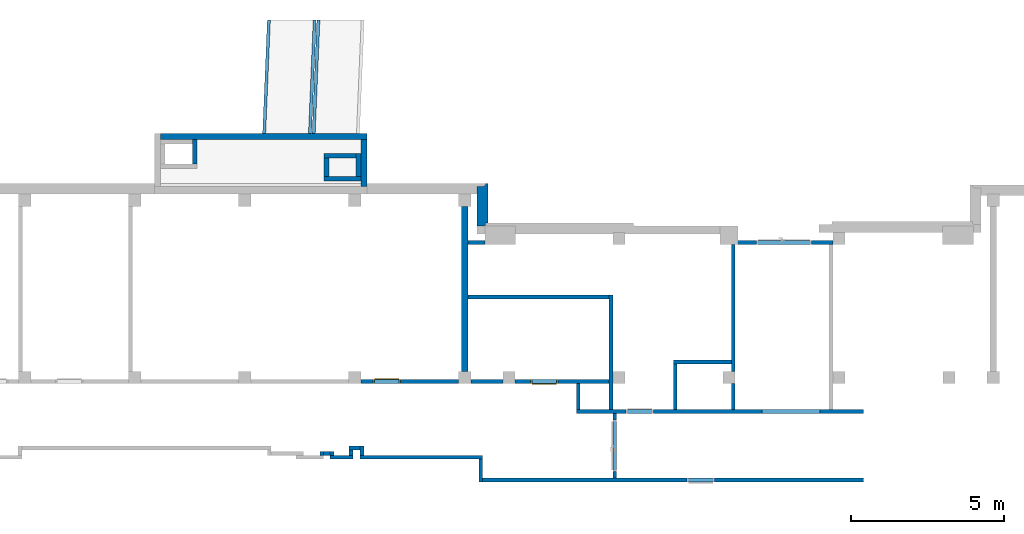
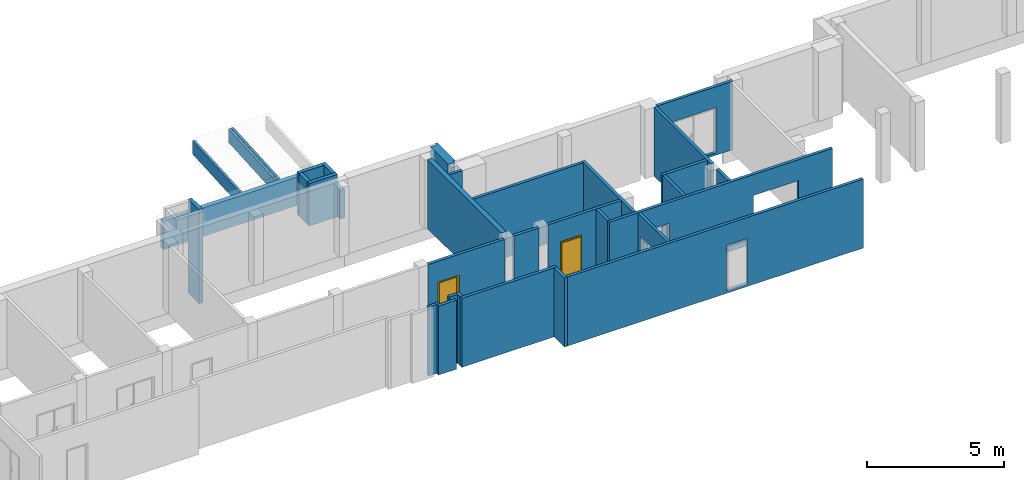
# One storey, part 3 of 6: 36 walls, 2 doors, 7 openings.
"""IFC4 building model written with IfcOpenShell, lengths in metres."""

import ifcopenshell
import ifcopenshell.guid

model = None  # the IFC model being written
_history = None  # IfcOwnerHistory: only IFC2X3 demands one
_inside = {}  # id of a spatial element -> (the spatial element, [elements in it])
_under = {}  # id of a project, library or spatial element -> (it, [spatial elements below it])
_declared = {}  # id of a project -> (the project, [libraries it declares])
_typed = {}  # id of a type object -> (the type object, [elements of that type])
_made_of = {}  # id of a material, layer set ... -> (it, [elements and type objects made of it])


def new_model(schema):
    """Start an empty IFC model of exactly this schema.

    Asked for "IFC4X3", IfcOpenShell would pick the latest addendum, in which some entities
    have other attributes; the version numbers below select the first issue.
    IFC2X3 requires an IfcOwnerHistory on every rooted entity: one is made here for all.
    """
    global model, _history
    if schema == "IFC4X3":
        model = ifcopenshell.file(schema_version=(4, 3, 0, 0))
    else:
        model = ifcopenshell.file(schema=schema)
    _inside.clear()
    _under.clear()
    _declared.clear()
    _typed.clear()
    _made_of.clear()
    _history = None
    if model.schema == "IFC2X3":
        org = make("IfcOrganization", Name="unknown")
        user = make(
            "IfcPersonAndOrganization",
            ThePerson=make("IfcPerson", FamilyName="unknown"),
            TheOrganization=org,
        )
        app = make(
            "IfcApplication",
            ApplicationDeveloper=org,
            Version="unknown",
            ApplicationFullName="unknown",
            ApplicationIdentifier="unknown",
        )
        _history = make(
            "IfcOwnerHistory",
            OwningUser=user,
            OwningApplication=app,
            ChangeAction="ADDED",
            CreationDate=0,
        )
    return model


def make(cls, **values):
    """One entity of the class cls with the attributes given. An attribute that is None is left unset."""
    return model.create_entity(
        cls, **{name: value for name, value in values.items() if value is not None}
    )


def entity(cls, *values):
    """Any entity or typed value of the class cls, its attributes in the order of the schema. None: left unset."""
    e = model.create_entity(cls)
    for i, value in enumerate(values):
        if value is not None:
            e[i] = value
    return e


def rooted(cls, **values):
    """An entity with a GlobalId (a new one), such as an element, a storey or a relation."""
    return make(cls, GlobalId=ifcopenshell.guid.new(), OwnerHistory=_history, **values)


def si_unit(unit_type, name, prefix=None):
    """IfcSIUnit, for example si_unit("LENGTHUNIT", "METRE", prefix="MILLI")."""
    return make("IfcSIUnit", UnitType=unit_type, Prefix=prefix, Name=name)


def converted_unit(unit_type, name, factor, base, dimensions=None, offset=None):
    """IfcConversionBasedUnit, such as the inch: factor (a typed value) times the base unit."""
    return make(
        "IfcConversionBasedUnit"
        if offset is None
        else "IfcConversionBasedUnitWithOffset",
        ConversionOffset=offset,
        Dimensions=None
        if dimensions is None
        else entity("IfcDimensionalExponents", *dimensions),
        UnitType=unit_type,
        Name=name,
        ConversionFactor=make(
            "IfcMeasureWithUnit", ValueComponent=factor, UnitComponent=base
        ),
    )


def derived_unit(unit_type, elements):
    """IfcDerivedUnit: a product of units, each with its exponent."""
    return make(
        "IfcDerivedUnit",
        Elements=[
            make("IfcDerivedUnitElement", Unit=unit, Exponent=power)
            for unit, power in elements
        ],
        UnitType=unit_type,
    )


def assignment(units):
    """IfcUnitAssignment: the units of a project."""
    return None if units is None else make("IfcUnitAssignment", Units=units)


def point(xyz):
    """IfcCartesianPoint."""
    return None if xyz is None else make("IfcCartesianPoint", Coordinates=xyz)


def direction(xyz):
    """IfcDirection."""
    return None if xyz is None else make("IfcDirection", DirectionRatios=xyz)


def frame(location, z_axis=None, x_axis=None):
    """IfcAxis2Placement3D, a coordinate frame: its origin and axes. An axis left out is left unset."""
    return make(
        "IfcAxis2Placement3D",
        Location=point(location),
        Axis=direction(z_axis),
        RefDirection=direction(x_axis),
    )


def frame_2d(location, x_axis=None):
    """IfcAxis2Placement2D, a coordinate frame in the plane: its origin and x axis."""
    return make(
        "IfcAxis2Placement2D", Location=point(location), RefDirection=direction(x_axis)
    )


def origin():
    """The frame at (0, 0, 0) with its axes left unset."""
    return frame((0.0, 0.0, 0.0))


def origin_with_axes():
    """The frame at (0, 0, 0) with the z axis (0, 0, 1) and the x axis (1, 0, 0) written out."""
    return frame((0.0, 0.0, 0.0), z_axis=(0.0, 0.0, 1.0), x_axis=(1.0, 0.0, 0.0))


def place(relative_to, where):
    """IfcLocalPlacement: puts the frame where relative to a parent placement (None: the world)."""
    return make(
        "IfcLocalPlacement", PlacementRelTo=relative_to, RelativePlacement=where
    )


def context(
    kind, dimensions, precision=None, world=None, true_north=None, identifier=None
):
    """IfcGeometricRepresentationContext, for example the 3D "Model" context."""
    return make(
        "IfcGeometricRepresentationContext",
        ContextIdentifier=identifier,
        ContextType=kind,
        CoordinateSpaceDimension=dimensions,
        Precision=precision,
        WorldCoordinateSystem=world,
        TrueNorth=true_north,
    )


def subcontext(parent, identifier, kind, view, scale=None):
    """IfcGeometricRepresentationSubContext, for example "Body" below "Model"."""
    return make(
        "IfcGeometricRepresentationSubContext",
        ContextIdentifier=identifier,
        ContextType=kind,
        ParentContext=parent,
        TargetScale=scale,
        TargetView=view,
    )


def project(units=None, contexts=None):
    """IfcProject with its units and contexts."""
    return rooted(
        "IfcProject",
        Name="project",
        RepresentationContexts=contexts,
        UnitsInContext=assignment(units),
    )


def spatial(cls, under=None, at=None, **own):
    """A site, building, storey or space (cls), placed at a placement, below another one or the project."""
    s = rooted(cls, ObjectPlacement=at, **own)
    if under is not None:
        _under.setdefault(under.id(), (under, []))[1].append(s)
    return s


def polyline(points):
    """IfcPolyline through the points."""
    return make("IfcPolyline", Points=[point(p) for p in points])


def profile(cls, at=None, kind="AREA", **sizes):
    """A parametric profile (cls). Its sizes go by their IFC names, for example OverallWidth=200.0."""
    return make(cls, ProfileType=kind, Position=at, **sizes)


def rectangle(**sizes):
    """IfcRectangleProfileDef."""
    return profile("IfcRectangleProfileDef", **sizes)


def outline(outer, holes=None, kind="AREA"):
    """IfcArbitraryClosedProfileDef: a profile drawn as a closed curve; with holes, ...WithVoids."""
    if holes is None:
        return make("IfcArbitraryClosedProfileDef", ProfileType=kind, OuterCurve=outer)
    return make(
        "IfcArbitraryProfileDefWithVoids",
        ProfileType=kind,
        OuterCurve=outer,
        InnerCurves=holes,
    )


def extrude(swept, where, along, depth):
    """IfcExtrudedAreaSolid: the profile swept, set in the frame where, extruded along a direction by depth."""
    return make(
        "IfcExtrudedAreaSolid",
        SweptArea=swept,
        Position=where,
        ExtrudedDirection=direction(along),
        Depth=depth,
    )


def clip(a, b, op="DIFFERENCE"):
    """IfcBooleanClippingResult: the solid a cut by the half space b."""
    return make(
        "IfcBooleanClippingResult", Operator=op, FirstOperand=a, SecondOperand=b
    )


def bounded_halfspace(plane, agree, where, boundary):
    """IfcPolygonalBoundedHalfSpace: a half space limited to a polygon's prism."""
    return make(
        "IfcPolygonalBoundedHalfSpace",
        BaseSurface=make("IfcPlane", Position=plane),
        AgreementFlag=agree,
        Position=where,
        PolygonalBoundary=boundary,
    )


def faces_of(points, faces, orient=None, outer=None):
    """IfcFace entities. A face is a list of loops; a loop is a list of indices into points, from 0.

    orient and outer hold one flag for each loop. By default every Orientation is true, the
    first loop of a face is its IfcFaceOuterBound and the others are IfcFaceBound.
    """
    made = []
    for i, loops in enumerate(faces):
        bounds = []
        for j, loop in enumerate(loops):
            is_outer = j == 0 if outer is None else outer[i][j]
            bounds.append(
                make(
                    "IfcFaceOuterBound" if is_outer else "IfcFaceBound",
                    Bound=make("IfcPolyLoop", Polygon=[points[k] for k in loop]),
                    Orientation=True if orient is None else orient[i][j],
                )
            )
        made.append(make("IfcFace", Bounds=bounds))
    return made


def faceted_brep(points, faces, orient=None, outer=None, voids=None):
    """IfcFacetedBrep: a solid bounded by flat faces; with voids (closed shells), ...WithVoids."""
    shared = [point(p) for p in points]
    hull = make("IfcClosedShell", CfsFaces=faces_of(shared, faces, orient, outer))
    if voids is None:
        return make("IfcFacetedBrep", Outer=hull)
    return make(
        "IfcFacetedBrepWithVoids",
        Outer=hull,
        Voids=[
            make(cls, CfsFaces=faces_of(shared, fs, o, b)) for cls, fs, o, b in voids
        ],
    )


def shape(context_of_items, identifier, shape_type, items):
    """IfcShapeRepresentation: the items that make up one representation, for example the "Body"."""
    return make(
        "IfcShapeRepresentation",
        ContextOfItems=context_of_items,
        RepresentationIdentifier=identifier,
        RepresentationType=shape_type,
        Items=items,
    )


def source(mapping_origin, context_of_items, identifier, shape_type, items):
    """IfcRepresentationMap: a shape defined once, which mapped items show again and again."""
    return make(
        "IfcRepresentationMap",
        MappingOrigin=mapping_origin,
        MappedRepresentation=shape(context_of_items, identifier, shape_type, items),
    )


def transform(
    local_origin,
    x_axis=None,
    y_axis=None,
    z_axis=None,
    scale=None,
    scale2=None,
    scale3=None,
    uniform=True,
):
    """IfcCartesianTransformationOperator3D, or its non-uniform kind. x_axis, y_axis, z_axis: its Axis1, 2, 3."""
    if uniform:
        return make(
            "IfcCartesianTransformationOperator3D",
            Axis1=direction(x_axis),
            Axis2=direction(y_axis),
            LocalOrigin=point(local_origin),
            Scale=scale,
            Axis3=direction(z_axis),
        )
    return make(
        "IfcCartesianTransformationOperator3DnonUniform",
        Axis1=direction(x_axis),
        Axis2=direction(y_axis),
        LocalOrigin=point(local_origin),
        Scale=scale,
        Axis3=direction(z_axis),
        Scale2=scale2,
        Scale3=scale3,
    )


def mapped(mapping_source, mapping_target):
    """IfcMappedItem: shows the shape of a source again, moved by a transform."""
    return make(
        "IfcMappedItem", MappingSource=mapping_source, MappingTarget=mapping_target
    )


def material(Name=None, Category=None):
    """IfcMaterial."""
    return make("IfcMaterial", Name=Name, Category=Category)


def layer(
    of_material, thickness, ventilated=None, Name=None, Category=None, Priority=None
):
    """IfcMaterialLayer: one layer of a wall or slab, of a material (None: an air gap)."""
    return make(
        "IfcMaterialLayer",
        Material=of_material,
        LayerThickness=thickness,
        IsVentilated=ventilated,
        Name=Name,
        Category=Category,
        Priority=Priority,
    )


def layer_set(layers, Name=None):
    """IfcMaterialLayerSet."""
    return make("IfcMaterialLayerSet", MaterialLayers=layers, LayerSetName=Name)


def layer_usage(for_layer_set, set_direction, sense, offset, extent=None):
    """IfcMaterialLayerSetUsage: how a layer set lies in its element."""
    return make(
        "IfcMaterialLayerSetUsage",
        ForLayerSet=for_layer_set,
        LayerSetDirection=set_direction,
        DirectionSense=sense,
        OffsetFromReferenceLine=offset,
        ReferenceExtent=extent,
    )


def made_of(thing, what):
    """Note that an element or type object is made of a material, layer set ...; save() writes the relation."""
    if what is not None:
        _made_of.setdefault(what.id(), (what, []))[1].append(thing)
    return thing


def type_object(cls, material=None, **own):
    """A type object (cls), such as IfcWallType, which elements share."""
    return made_of(rooted(cls, **own), material)


def element(
    cls,
    number,
    at=None,
    inside=None,
    cuts=None,
    type_object=None,
    material=None,
    context=None,
    identifier="Body",
    shape_type=None,
    held_by="IfcProductDefinitionShape",
    body=None,
    shapes=None,
    **own,
):
    """One element of the class cls, such as IfcWall. Its Tag is "e" and its number.

    at: its placement. inside: the storey or other place that contains it. cuts: it is an
    opening in that element (IfcRelVoidsElement). A single representation is given by context,
    identifier, shape_type and body (its items); several are given by shapes. held_by: the class
    of the entity that holds the representations. save() writes the other relations.
    """
    e = rooted(cls, Tag="e%d" % number, ObjectPlacement=at, **own)
    if body is not None:
        shapes = [shape(context, identifier, shape_type, body)]
    if shapes is not None:
        e.Representation = make(held_by, Representations=shapes)
    if inside is not None:
        _inside.setdefault(inside.id(), (inside, []))[1].append(e)
    if cuts is not None:
        rooted(
            "IfcRelVoidsElement", RelatingBuildingElement=cuts, RelatedOpeningElement=e
        )
    if type_object is not None:
        _typed.setdefault(type_object.id(), (type_object, []))[1].append(e)
    return made_of(e, material)


def fill(opening, filler):
    """IfcRelFillsElement: the door or window that sits in an opening."""
    return rooted(
        "IfcRelFillsElement",
        RelatingOpeningElement=opening,
        RelatedBuildingElement=filler,
    )


def aggregate(whole, parts):
    """IfcRelAggregates: a whole, such as a stair, and the parts it consists of."""
    return rooted("IfcRelAggregates", RelatingObject=whole, RelatedObjects=parts)


def save(model, path):
    """Write the relations noted so far, then the file.

    IfcRelAggregates (storeys below a building ...), IfcRelContainedInSpatialStructure (elements
    in a storey), IfcRelDefinesByType, IfcRelAssociatesMaterial and IfcRelDeclares: one each for
    every whole, place, type object, material and project.
    """
    for whole, parts in _under.values():
        aggregate(whole, parts)
    for where, things in _inside.values():
        rooted(
            "IfcRelContainedInSpatialStructure",
            RelatedElements=things,
            RelatingStructure=where,
        )
    for kind, things in _typed.values():
        rooted("IfcRelDefinesByType", RelatedObjects=things, RelatingType=kind)
    for what, things in _made_of.values():
        rooted("IfcRelAssociatesMaterial", RelatedObjects=things, RelatingMaterial=what)
    for by, libraries in _declared.values():
        rooted("IfcRelDeclares", RelatingContext=by, RelatedDefinitions=libraries)
    model.write(path)


model = new_model("IFC4")

# Units and contexts
model_context = context("Model", 3, precision=1e-05, world=origin())
body_context = subcontext(model_context, "Body", "Model", "MODEL_VIEW")
ifc_project = project(units=[si_unit("LENGTHUNIT", "METRE"), si_unit("AREAUNIT", "SQUARE_METRE"), si_unit("VOLUMEUNIT", "CUBIC_METRE"), si_unit("MASSUNIT", "GRAM", prefix="KILO"), converted_unit("PLANEANGLEUNIT", "DEGREE", entity("IfcPlaneAngleMeasure", 0.0174532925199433), si_unit("PLANEANGLEUNIT", "RADIAN"), dimensions=[0, 0, 0, 0, 0, 0, 0]), derived_unit("THERMALTRANSMITTANCEUNIT", [(si_unit("POWERUNIT", "WATT"), 1), (si_unit("THERMODYNAMICTEMPERATUREUNIT", "KELVIN"), -1), (si_unit("LENGTHUNIT", "METRE"), -2)]), derived_unit("VOLUMETRICFLOWRATEUNIT", [(si_unit("LENGTHUNIT", "METRE"), 3), (converted_unit("TIMEUNIT", "hour", entity("IfcTimeMeasure", 3600.0), si_unit("TIMEUNIT", "SECOND"), dimensions=[0, 0, 1, 0, 0, 0, 0]), -1), (si_unit("LENGTHUNIT", "METRE"), -1)])], contexts=[model_context])

# Site, building, storey
site_placement = place(None, origin())
site = spatial("IfcSite", under=ifc_project, at=site_placement, Name="3. ASŘ", CompositionType="ELEMENT")
building_placement = place(site_placement, origin())
building = spatial("IfcBuilding", under=site, at=building_placement, Name="Pavilon B", CompositionType="ELEMENT")
storey_placement = place(building_placement, frame((0.0, 0.0, -3.3)))
storey = spatial("IfcBuildingStorey", under=building, at=storey_placement, Name="Půdorys 1.PP", CompositionType="ELEMENT", Elevation=-3.3)

# Wall, opening
ifc_material_1 = material(Name="ZDIVO Z CDm")
ifc_layer_1 = layer(ifc_material_1, 0.125)
ifc_layer_set_1 = layer_set([ifc_layer_1])
ifc_layer_usage_1 = layer_usage(ifc_layer_set_1, "AXIS2", "POSITIVE", 0.0)
wall_1_placement = place(storey_placement, frame((40.65, -17.25, -0.1)))
wall_1 = element("IfcWall", 1, at=wall_1_placement, inside=storey, material=ifc_layer_usage_1, Name="ZDIVO Z CDm", context=body_context, shape_type="SweptSolid", body=[
    extrude(rectangle(XDim=3.2, YDim=0.125, at=frame_2d((1.6, 0.0625), x_axis=(1.0, 0.0))), origin_with_axes(), (0.0, 0.0, 1.0), 3.05),
])
opening_1_placement = place(wall_1_placement, frame((2.5, 0.125, 0.1), z_axis=(0.0, -1.0, 0.0), x_axis=(0.0, 0.0, 1.0)))
element("IfcOpeningElement", 2, at=opening_1_placement, cuts=wall_1, Name="Dveřní otvor", ObjectType="Opening", context=body_context, shape_type="SweptSolid", body=[
    extrude(outline(polyline([(0.0, 1.8), (2.02, 1.8), (2.02, 0.0), (0.0, 0.0), (0.0, 1.8)])), origin_with_axes(), (0.0, 0.0, 1.0), 0.125),
])

# Walls
ifc_material_2 = material(Name="ZELEZOBETONOVÁ KCE")
ifc_layer_2 = layer(ifc_material_2, 0.2)
ifc_layer_set_2 = layer_set([ifc_layer_2])
ifc_layer_usage_2 = layer_usage(ifc_layer_set_2, "AXIS2", "POSITIVE", -0.1)
wall_2_placement = place(storey_placement, frame((31.9, -21.4, -0.12), z_axis=(0.0, 0.0, 1.0), x_axis=(0.0, 1.0, 0.0)))
element("IfcWall", 3, at=wall_2_placement, inside=storey, material=ifc_layer_usage_2, Name="ZELEZOBETONOVÁ KCE", context=body_context, shape_type="SweptSolid", body=[
    extrude(rectangle(XDim=5.4, YDim=0.2, at=frame_2d((2.7, 0.1), x_axis=(1.0, 0.0))), origin_with_axes(), (0.0, 0.0, 1.0), 3.07),
])
ifc_material_3 = material(Name="ZELEZOBETONOVÁ KCE")
ifc_layer_3 = layer(ifc_material_3, 0.25)
ifc_material_4 = material(Name="LIGNOPOR")
ifc_layer_4 = layer(ifc_material_4, 0.025)
ifc_material_5 = material(Name="PÓROBETONOVÉ ZDIVO")
ifc_layer_5 = layer(ifc_material_5, 0.08)
ifc_layer_set_3 = layer_set([ifc_layer_3, ifc_layer_4, ifc_layer_5])
ifc_layer_usage_3 = layer_usage(ifc_layer_set_3, "AXIS2", "POSITIVE", 0.0)
wall_3_placement = place(storey_placement, frame((32.2, -15.35, -1.15), z_axis=(0.0, 0.0, 1.0), x_axis=(0.0, -1.0, 0.0)))
element("IfcWall", 4, at=wall_3_placement, inside=storey, material=ifc_layer_usage_3, Name="ZELEZOBETONOVÁ KCE", context=body_context, shape_type="Clipping", body=[
    clip(clip(extrude(outline(polyline([(-1.3, 0.0), (0.0, 0.0), (0.0, 0.25), (-0.025, 0.25), (-0.025, 0.275), (-0.105, 0.275), (-0.105, 0.355), (-1.405, 0.355), (-1.405, 0.275), (-1.325, 0.275), (-1.325, 0.25), (-1.3, 0.25), (-1.3, 0.0)])), frame((1.3, 0.0, 0.0), z_axis=(0.0, 0.0, 1.0), x_axis=(1.0, 0.0, 0.0)), (0.0, 0.0, 1.0), 4.1), bounded_halfspace(frame((0.649999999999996, 0.125, 0.750000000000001), z_axis=(0.0, 0.0, 1.0), x_axis=(0.0, -1.0, 0.0)), True, origin_with_axes(), polyline([(0.0, 0.25), (0.0, 0.0), (1.3, 0.0), (1.3, 0.25), (0.0, 0.25)]))), bounded_halfspace(frame((0.61583333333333, 0.262499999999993, 1.15), z_axis=(0.0, 0.0, 1.0), x_axis=(-1.0, 0.0, 0.0)), True, origin_with_axes(), polyline([(1.195, 0.275), (-0.025, 0.275), (-0.025, 0.25), (0.0, 0.25), (1.275, 0.25), (1.275, 0.275), (1.195, 0.275)]))),
])
ifc_material_6 = material(Name="ZELEZOBETONOVÁ KCE")
ifc_layer_6 = layer(ifc_material_6, 0.15)
ifc_layer_set_4 = layer_set([ifc_layer_6])
ifc_layer_usage_4 = layer_usage(ifc_layer_set_4, "AXIS2", "POSITIVE", 0.0)
wall_4_placement = place(storey_placement, frame((23.0430036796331, -14.6107926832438, -1.23), z_axis=(0.0, 0.0, 1.0), x_axis=(0.0, 1.0, 0.0)))
element("IfcWall", 5, at=wall_4_placement, inside=storey, material=ifc_layer_usage_4, Name="ZELEZOBETONOVÁ KCE", context=body_context, shape_type="SweptSolid", body=[
    extrude(rectangle(XDim=0.8, YDim=0.15, at=frame_2d((0.4, 0.075), x_axis=(1.0, 0.0))), origin_with_axes(), (0.0, 0.0, 1.0), 4.18),
])
ifc_material_7 = material(Name="ZELEZOBETONOVÁ KCE")
ifc_layer_7 = layer(ifc_material_7, 0.15)
ifc_layer_set_5 = layer_set([ifc_layer_7])
ifc_layer_usage_5 = layer_usage(ifc_layer_set_5, "AXIS2", "POSITIVE", 0.0)
wall_5_placement = place(storey_placement, frame((28.2481868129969, -14.275, 1.06), z_axis=(0.0, 0.0, 1.0), x_axis=(0.0, -1.0, 0.0)))
element("IfcWall", 6, at=wall_5_placement, inside=storey, material=ifc_layer_usage_5, Name="ZELEZOBETONOVÁ KCE", context=body_context, shape_type="SweptSolid", body=[
    extrude(rectangle(XDim=0.75, YDim=0.15, at=frame_2d((0.375, 0.075), x_axis=(1.0, 0.0))), origin_with_axes(), (0.0, 0.0, 1.0), 1.89),
])
ifc_material_8 = material(Name="ZELEZOBETONOVÁ KCE")
ifc_layer_8 = layer(ifc_material_8, 0.15)
ifc_layer_set_6 = layer_set([ifc_layer_8])
ifc_layer_usage_6 = layer_usage(ifc_layer_set_6, "AXIS2", "POSITIVE", 0.0)
wall_6_placement = place(storey_placement, frame((27.1981868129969, -14.425, 1.06), z_axis=(0.0, 0.0, 1.0), x_axis=(0.0, -1.0, 0.0)))
element("IfcWall", 7, at=wall_6_placement, inside=storey, material=ifc_layer_usage_6, Name="ZELEZOBETONOVÁ KCE", context=body_context, shape_type="SweptSolid", body=[
    extrude(rectangle(XDim=0.6, YDim=0.15, at=frame_2d((0.3, 0.075), x_axis=(1.0, 0.0))), origin_with_axes(), (0.0, 0.0, 1.0), 1.89),
])
ifc_material_9 = material(Name="ZELEZOBETONOVÁ KCE")
ifc_layer_9 = layer(ifc_material_9, 0.15)
ifc_layer_set_7 = layer_set([ifc_layer_9])
ifc_layer_usage_7 = layer_usage(ifc_layer_set_7, "AXIS2", "POSITIVE", 0.0)
wall_7_placement = place(storey_placement, frame((27.1981868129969, -15.175, 1.06)))
element("IfcWall", 8, at=wall_7_placement, inside=storey, material=ifc_layer_usage_7, Name="ZELEZOBETONOVÁ KCE", context=body_context, shape_type="SweptSolid", body=[
    extrude(rectangle(XDim=1.2, YDim=0.15, at=frame_2d((0.6, 0.075), x_axis=(1.0, 0.0))), origin_with_axes(), (0.0, 0.0, 1.0), 1.89),
])
ifc_material_10 = material(Name="ZELEZOBETONOVÁ KCE")
ifc_layer_10 = layer(ifc_material_10, 0.15)
ifc_layer_set_8 = layer_set([ifc_layer_10])
ifc_layer_usage_8 = layer_usage(ifc_layer_set_8, "AXIS2", "POSITIVE", 0.0)
wall_8_placement = place(storey_placement, frame((28.2481868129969, -14.275, 1.06), z_axis=(0.0, 0.0, 1.0), x_axis=(-1.0, 0.0, 0.0)))
element("IfcWall", 9, at=wall_8_placement, inside=storey, material=ifc_layer_usage_8, Name="ZELEZOBETONOVÁ KCE", context=body_context, shape_type="SweptSolid", body=[
    extrude(rectangle(XDim=1.05, YDim=0.15, at=frame_2d((0.525, 0.075), x_axis=(1.0, 0.0))), origin_with_axes(), (0.0, 0.0, 1.0), 1.89),
])
ifc_material_11 = material(Name="ZELEZOBETONOVÁ KCE")
ifc_layer_11 = layer(ifc_material_11, 0.2)
ifc_layer_set_9 = layer_set([ifc_layer_11])
ifc_layer_usage_9 = layer_usage(ifc_layer_set_9, "AXIS2", "POSITIVE", 0.0)
wall_9_placement = place(storey_placement, frame((28.3981868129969, -13.8107926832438, 1.06), z_axis=(0.0, 0.0, 1.0), x_axis=(0.0, -1.0, 0.0)))
element("IfcWall", 10, at=wall_9_placement, inside=storey, material=ifc_layer_usage_9, Name="ZELEZOBETONOVÁ KCE", context=body_context, shape_type="SweptSolid", body=[
    extrude(rectangle(XDim=1.53920731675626, YDim=0.2, at=frame_2d((0.769603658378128, 0.1), x_axis=(1.0, 0.0))), origin_with_axes(), (0.0, 0.0, 1.0), 1.26),
])
ifc_material_12 = material(Name="ZELEZOBETONOVÁ KCE")
ifc_layer_12 = layer(ifc_material_12, 0.2)
ifc_layer_set_10 = layer_set([ifc_layer_12])
ifc_layer_usage_10 = layer_usage(ifc_layer_set_10, "AXIS2", "POSITIVE", 0.0)
wall_10_placement = place(storey_placement, frame((28.5981868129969, -13.6107926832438, 1.06), z_axis=(0.0, 0.0, 1.0), x_axis=(-1.0, 0.0, 0.0)))
element("IfcWall", 11, at=wall_10_placement, inside=storey, material=ifc_layer_usage_10, Name="ZELEZOBETONOVÁ KCE", context=body_context, shape_type="SweptSolid", body=[
    extrude(rectangle(XDim=6.75518313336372, YDim=0.2, at=frame_2d((3.37759156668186, 0.1), x_axis=(1.0, 0.0))), origin_with_axes(), (0.0, 0.0, 1.0), 1.26),
])
ifc_material_13 = material(Name="PREFA ŽB ENERGOKANÁL")
ifc_layer_13 = layer(ifc_material_13, 0.0999999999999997)
ifc_layer_set_11 = layer_set([ifc_layer_13])
ifc_layer_usage_11 = layer_usage(ifc_layer_set_11, "AXIS2", "POSITIVE", 0.0)
wall_11_placement = place(storey_placement, frame((26.9593908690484, -9.90045846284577, 1.72), z_axis=(0.0, 0.0, 1.0), x_axis=(-0.0415315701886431, -0.999137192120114, 0.0)))
element("IfcWall", 12, at=wall_11_placement, inside=storey, material=ifc_layer_usage_11, Name="PREFA ŽB ENERGOKANÁL", context=body_context, shape_type="SweptSolid", body=[
    extrude(outline(polyline([(-3.71353829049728, 0.0), (0.0, 0.0), (-0.00415674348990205, 0.0999999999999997), (-3.71769503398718, 0.0999999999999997), (-3.71353829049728, 0.0)])), frame((3.71353829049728, 0.0, 0.0), z_axis=(0.0, 0.0, 1.0), x_axis=(1.0, 0.0, 0.0)), (0.0, 0.0, 1.0), 0.6),
])
ifc_material_14 = material(Name="PREFA ŽB ENERGOKANÁL")
ifc_layer_14 = layer(ifc_material_14, 0.100000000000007)
ifc_layer_set_12 = layer_set([ifc_layer_14])
ifc_layer_usage_12 = layer_usage(ifc_layer_set_12, "AXIS2", "POSITIVE", 0.0)
wall_12_placement = place(storey_placement, frame((26.8392872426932, -9.90045846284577, 1.72), z_axis=(0.0, 0.0, 1.0), x_axis=(-0.0415315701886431, -0.999137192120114, 0.0)))
element("IfcWall", 13, at=wall_12_placement, inside=storey, material=ifc_layer_usage_12, Name="PREFA ŽB ENERGOKANÁL", context=body_context, shape_type="SweptSolid", body=[
    extrude(outline(polyline([(-3.71353829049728, 0.0), (0.0, 0.0), (-0.00415674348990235, 0.100000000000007), (-3.71769503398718, 0.100000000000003), (-3.71353829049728, 0.0)])), frame((3.71353829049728, 0.0, 0.0), z_axis=(0.0, 0.0, 1.0), x_axis=(1.0, 0.0, 0.0)), (0.0, 0.0, 1.0), 0.6),
])
ifc_material_15 = material(Name="PREFA ŽB ENERGOKANÁL")
ifc_layer_15 = layer(ifc_material_15, 0.100000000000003)
ifc_layer_set_13 = layer_set([ifc_layer_15])
ifc_layer_usage_13 = layer_usage(ifc_layer_set_13, "AXIS2", "POSITIVE", 0.0)
wall_13_placement = place(storey_placement, frame((25.3379919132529, -9.90045846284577, 1.72), z_axis=(0.0, 0.0, 1.0), x_axis=(-0.0415315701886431, -0.999137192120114, 0.0)))
element("IfcWall", 14, at=wall_13_placement, inside=storey, material=ifc_layer_usage_13, Name="PREFA ŽB ENERGOKANÁL", context=body_context, shape_type="SweptSolid", body=[
    extrude(outline(polyline([(-3.71353829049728, 0.0), (0.0, 0.0), (-0.0041567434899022, 0.100000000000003), (-3.71769503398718, 0.0999999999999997), (-3.71353829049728, 0.0)])), frame((3.71353829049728, 0.0, 0.0), z_axis=(0.0, 0.0, 1.0), x_axis=(1.0, 0.0, 0.0)), (0.0, 0.0, 1.0), 0.6),
])

# Wall, opening, door
ifc_material_16 = material(Name="ZDIVO Z CDm")
ifc_layer_16 = layer(ifc_material_16, 0.125)
ifc_layer_set_14 = layer_set([ifc_layer_16])
ifc_layer_usage_14 = layer_usage(ifc_layer_set_14, "AXIS2", "POSITIVE", 0.0)
wall_14_placement = place(storey_placement, frame((28.4, -21.8, -0.12)))
wall_14 = element("IfcWall", 15, at=wall_14_placement, inside=storey, material=ifc_layer_usage_14, Name="ZDIVO Z CDm", context=body_context, shape_type="SweptSolid", body=[
    extrude(rectangle(XDim=3.2, YDim=0.125, at=frame_2d((1.6, 0.0625), x_axis=(1.0, 0.0))), origin_with_axes(), (0.0, 0.0, 1.0), 3.07),
])
opening_2_placement = place(wall_14_placement, frame((1.3, 0.125, 0.12), z_axis=(0.0, -1.0, 0.0), x_axis=(0.0, 0.0, 1.0)))
opening_2 = element("IfcOpeningElement", 16, at=opening_2_placement, cuts=wall_14, Name="Dveřní otvor", ObjectType="Opening", context=body_context, shape_type="SweptSolid", body=[
    extrude(outline(polyline([(0.0, 0.9), (2.02, 0.9), (2.02, 0.0), (0.0, 0.0), (0.0, 0.9)])), origin_with_axes(), (0.0, 0.0, 1.0), 0.125),
])
door_type_1 = type_object("IfcDoorType", Name="D401", OperationType="NOTDEFINED", ParameterTakesPrecedence=False, PredefinedType="DOOR")
shared_shape = source(origin_with_axes(), body_context, "Body", "Brep", [
    faceted_brep([(0.0, 0.165, 2.02), (0.0, 0.165, -7.65404249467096e-18), (0.05, 0.165, -7.65404249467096e-18), (0.05, 0.165, 2.02), (0.0, 0.04, 7.65404249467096e-18), (0.0, 0.0400000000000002, 2.02), (0.05, 0.0400000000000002, 2.02), (0.05, 0.04, 7.65404249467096e-18)], [[[0, 1, 2, 3]], [[4, 5, 6, 7]], [[1, 0, 5, 4]], [[2, 1, 4, 7]], [[3, 2, 7, 6]], [[0, 3, 6, 5]]], orient=[[False], [False], [False], [False], [False], [False]]),
    faceted_brep([(0.85, 0.165, 2.02), (0.85, 0.165, -7.65404249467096e-18), (0.9, 0.165, -7.65404249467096e-18), (0.9, 0.165, 2.02), (0.85, 0.04, 7.65404249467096e-18), (0.85, 0.0400000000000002, 2.02), (0.9, 0.0400000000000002, 2.02), (0.9, 0.04, 7.65404249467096e-18)], [[[0, 1, 2, 3]], [[4, 5, 6, 7]], [[1, 0, 5, 4]], [[2, 1, 4, 7]], [[3, 2, 7, 6]], [[0, 3, 6, 5]]], orient=[[False], [False], [False], [False], [False], [False]]),
    faceted_brep([(0.05, 0.165, 2.02), (0.05, 0.165, 1.97), (0.85, 0.165, 1.97), (0.85, 0.165, 2.02), (0.05, 0.0400000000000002, 1.97), (0.05, 0.0400000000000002, 2.02), (0.85, 0.0400000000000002, 2.02), (0.85, 0.0400000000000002, 1.97)], [[[0, 1, 2, 3]], [[4, 5, 6, 7]], [[1, 0, 5, 4]], [[2, 1, 4, 7]], [[3, 2, 7, 6]], [[0, 3, 6, 5]]], orient=[[False], [False], [False], [False], [False], [False]]),
    faceted_brep([(0.05, 0.0400000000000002, 1.97), (0.05, 0.04, 7.65404249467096e-18), (0.85, 0.04, 7.65404249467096e-18), (0.85, 0.0400000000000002, 1.97), (0.05, 0.0, 1.25526296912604e-17), (0.05, 2.41584530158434e-16, 1.97), (0.85, 2.41584530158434e-16, 1.97), (0.85, 0.0, 1.25526296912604e-17)], [[[0, 1, 2, 3]], [[4, 5, 6, 7]], [[1, 0, 5, 4]], [[2, 1, 4, 7]], [[3, 2, 7, 6]], [[0, 3, 6, 5]]], orient=[[False], [False], [False], [False], [False], [False]]),
])
door_1_placement = place(opening_2_placement, frame((0.0, 0.9, -0.04), z_axis=(1.0, 0.0, 0.0), x_axis=(0.0, -1.0, 1.22464679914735e-16)))
door_1 = element("IfcDoor", 17, at=door_1_placement, inside=storey, type_object=door_type_1, Name="D401", OverallHeight=2.02, OverallWidth=0.9, context=body_context, shape_type="MappedRepresentation", body=[
    mapped(shared_shape, transform((0.0, 0.0, 0.0), x_axis=(1.0, 0.0, 0.0), y_axis=(0.0, -1.0, 0.0), z_axis=(0.0, 0.0, 1.0), scale=1.0)),
])
fill(opening_2, door_1)

# Walls
ifc_material_17 = material(Name="ZDIVO Z CDm")
ifc_layer_17 = layer(ifc_material_17, 0.125)
ifc_layer_set_15 = layer_set([ifc_layer_17])
ifc_layer_usage_15 = layer_usage(ifc_layer_set_15, "AXIS2", "POSITIVE", 0.0)
wall_15_placement = place(storey_placement, frame((40.65, -21.4, -0.12), z_axis=(0.0, 0.0, 1.0), x_axis=(0.0, 1.0, 0.0)))
element("IfcWall", 18, at=wall_15_placement, inside=storey, material=ifc_layer_usage_15, Name="ZDIVO Z CDm", context=body_context, shape_type="SweptSolid", body=[
    extrude(rectangle(XDim=4.15, YDim=0.125, at=frame_2d((2.075, 0.0625), x_axis=(1.0, 0.0))), origin_with_axes(), (0.0, 0.0, 1.0), 3.07),
])
ifc_material_18 = material(Name="ZDIVO Z CDm")
ifc_layer_18 = layer(ifc_material_18, 0.125)
ifc_layer_set_16 = layer_set([ifc_layer_18])
ifc_layer_usage_16 = layer_usage(ifc_layer_set_16, "AXIS2", "POSITIVE", 0.0)
wall_16_placement = place(storey_placement, frame((31.9, -17.25, -0.12)))
element("IfcWall", 19, at=wall_16_placement, inside=storey, material=ifc_layer_usage_16, Name="ZDIVO Z CDm", context=body_context, shape_type="SweptSolid", body=[
    extrude(rectangle(XDim=0.555041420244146, YDim=0.125, at=frame_2d((0.277520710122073, 0.0625), x_axis=(1.0, 0.0))), origin_with_axes(), (0.0, 0.0, 1.0), 3.07),
])
ifc_material_19 = material(Name="ZDIVO Z CDm")
ifc_layer_19 = layer(ifc_material_19, 0.125)
ifc_layer_set_17 = layer_set([ifc_layer_19])
ifc_layer_usage_17 = layer_usage(ifc_layer_set_17, "AXIS2", "POSITIVE", 0.0)
wall_17_placement = place(storey_placement, frame((32.385, -25.025, -0.12), z_axis=(0.0, 0.0, 1.0), x_axis=(0.0, 1.0, 0.0)))
element("IfcWall", 20, at=wall_17_placement, inside=storey, material=ifc_layer_usage_17, Name="ZDIVO Z CDm", context=body_context, shape_type="SweptSolid", body=[
    extrude(rectangle(XDim=0.75, YDim=0.125, at=frame_2d((0.375, 0.0625), x_axis=(1.0, 0.0))), origin_with_axes(), (0.0, 0.0, 1.0), 3.07),
])
ifc_material_20 = material(Name="ZDIVO Z CDm")
ifc_layer_20 = layer(ifc_material_20, 0.125)
ifc_layer_set_18 = layer_set([ifc_layer_20])
ifc_layer_usage_18 = layer_usage(ifc_layer_set_18, "AXIS2", "POSITIVE", 0.0)
wall_18_placement = place(storey_placement, frame((40.65, -22.65, -0.12), z_axis=(0.0, 0.0, 1.0), x_axis=(0.0, 1.0, 0.0)))
element("IfcWall", 21, at=wall_18_placement, inside=storey, material=ifc_layer_usage_18, Name="ZDIVO Z CDm", context=body_context, shape_type="SweptSolid", body=[
    extrude(rectangle(XDim=0.849999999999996, YDim=0.125, at=frame_2d((0.424999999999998, 0.0625), x_axis=(1.0, 0.0))), origin_with_axes(), (0.0, 0.0, 1.0), 3.07),
])
ifc_material_21 = material(Name="ZDIVO Z CDm")
ifc_layer_21 = layer(ifc_material_21, 0.125)
ifc_layer_set_19 = layer_set([ifc_layer_21])
ifc_layer_usage_19 = layer_usage(ifc_layer_set_19, "AXIS2", "POSITIVE", 0.0)
wall_19_placement = place(storey_placement, frame((35.45, -21.8, -0.12), z_axis=(0.0, 0.0, 1.0), x_axis=(0.0, -1.0, 0.0)))
element("IfcWall", 22, at=wall_19_placement, inside=storey, material=ifc_layer_usage_19, Name="ZDIVO Z CDm", context=body_context, shape_type="SweptSolid", body=[
    extrude(rectangle(XDim=0.849999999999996, YDim=0.125, at=frame_2d((0.424999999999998, 0.0625), x_axis=(1.0, 0.0))), origin_with_axes(), (0.0, 0.0, 1.0), 3.07),
])

# Wall, opening, door
ifc_material_22 = material(Name="ZDIVO Z CDm")
ifc_layer_22 = layer(ifc_material_22, 0.125)
ifc_layer_set_20 = layer_set([ifc_layer_22])
ifc_layer_usage_20 = layer_usage(ifc_layer_set_20, "AXIS2", "POSITIVE", 0.0)
wall_20_placement = place(storey_placement, frame((33.45, -21.8, -0.12)))
wall_20 = element("IfcWall", 23, at=wall_20_placement, inside=storey, material=ifc_layer_usage_20, Name="ZDIVO Z CDm", context=body_context, shape_type="SweptSolid", body=[
    extrude(rectangle(XDim=3.075, YDim=0.125, at=frame_2d((1.5375, 0.0625), x_axis=(1.0, 0.0))), origin_with_axes(), (0.0, 0.0, 1.0), 3.07),
])
opening_3_placement = place(wall_20_placement, frame((0.5, 0.0, 0.12), z_axis=(0.0, 1.0, 0.0), x_axis=(0.0, 0.0, 1.0)))
opening_3 = element("IfcOpeningElement", 24, at=opening_3_placement, cuts=wall_20, Name="Dveřní otvor", ObjectType="Opening", context=body_context, shape_type="SweptSolid", body=[
    extrude(outline(polyline([(0.0, 0.9), (2.02, 0.9), (2.02, 0.0), (0.0, 0.0), (0.0, 0.9)])), origin_with_axes(), (0.0, 0.0, 1.0), 0.125),
])
door_type_2 = type_object("IfcDoorType", Name="D401", OperationType="NOTDEFINED", ParameterTakesPrecedence=False, PredefinedType="DOOR")
door_2_placement = place(opening_3_placement, frame((0.0, 0.9, -0.04), z_axis=(1.0, 0.0, 0.0), x_axis=(0.0, -1.0, 0.0)))
door_2 = element("IfcDoor", 25, at=door_2_placement, inside=storey, type_object=door_type_2, Name="D401", OverallHeight=2.02, OverallWidth=0.9, context=body_context, shape_type="MappedRepresentation", body=[
    mapped(shared_shape, transform((0.0, 0.0, 0.0), x_axis=(1.0, 0.0, 0.0), y_axis=(0.0, -1.0, 0.0), z_axis=(0.0, 0.0, 1.0), scale=1.0)),
])
fill(opening_3, door_2)

# Walls
ifc_material_23 = material(Name="ZDIVO Z CDm")
ifc_layer_23 = layer(ifc_material_23, 0.125)
ifc_layer_set_21 = layer_set([ifc_layer_23])
ifc_layer_usage_21 = layer_usage(ifc_layer_set_21, "AXIS2", "POSITIVE", 0.0)
wall_21_placement = place(storey_placement, frame((32.0, -21.8, -0.12), z_axis=(0.0, 0.0, 1.0), x_axis=(1.0, -3.46474172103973e-15, 0.0)))
element("IfcWall", 26, at=wall_21_placement, inside=storey, material=ifc_layer_usage_21, Name="ZDIVO Z CDm", context=body_context, shape_type="SweptSolid", body=[
    extrude(rectangle(XDim=1.05, YDim=0.125, at=frame_2d((0.525, 0.0625), x_axis=(1.0, 0.0))), origin_with_axes(), (0.0, 0.0, 1.0), 3.07),
])
ifc_material_24 = material(Name="ZDIVO Z CDm")
ifc_layer_24 = layer(ifc_material_24, 0.125)
ifc_layer_set_22 = layer_set([ifc_layer_24])
ifc_layer_usage_22 = layer_usage(ifc_layer_set_22, "AXIS2", "POSITIVE", 0.0)
wall_22_placement = place(storey_placement, frame((36.65, -22.65, -0.12), z_axis=(0.0, 0.0, 1.0), x_axis=(0.0, 1.0, 0.0)))
element("IfcWall", 27, at=wall_22_placement, inside=storey, material=ifc_layer_usage_22, Name="ZDIVO Z CDm", context=body_context, shape_type="SweptSolid", body=[
    extrude(rectangle(XDim=3.75, YDim=0.125, at=frame_2d((1.875, 0.0625), x_axis=(1.0, 0.0))), origin_with_axes(), (0.0, 0.0, 1.0), 3.07),
])
ifc_material_25 = material(Name="ZDIVO Z CDm")
ifc_layer_25 = layer(ifc_material_25, 0.125)
ifc_layer_set_23 = layer_set([ifc_layer_25])
ifc_layer_usage_23 = layer_usage(ifc_layer_set_23, "AXIS2", "POSITIVE", 0.0)
wall_23_placement = place(storey_placement, frame((36.525, -18.9, -0.12), z_axis=(0.0, 0.0, 1.0), x_axis=(-1.0, 0.0, 0.0)))
element("IfcWall", 28, at=wall_23_placement, inside=storey, material=ifc_layer_usage_23, Name="ZDIVO Z CDm", context=body_context, shape_type="SweptSolid", body=[
    extrude(rectangle(XDim=4.625, YDim=0.125, at=frame_2d((2.3125, 0.0625), x_axis=(1.0, 0.0))), origin_with_axes(), (0.0, 0.0, 1.0), 3.07),
])

# Wall, opening
ifc_material_26 = material(Name="ZDIVO Z CDm")
ifc_layer_26 = layer(ifc_material_26, 0.125)
ifc_layer_set_24 = layer_set([ifc_layer_26])
ifc_layer_usage_24 = layer_usage(ifc_layer_set_24, "AXIS2", "POSITIVE", 0.0)
wall_24_placement = place(storey_placement, frame((36.65, -22.775, -0.12), z_axis=(0.0, 0.0, 1.0), x_axis=(0.0, -1.0, 0.0)))
wall_24 = element("IfcWall", 29, at=wall_24_placement, inside=storey, material=ifc_layer_usage_24, Name="ZDIVO Z CDm", context=body_context, shape_type="SweptSolid", body=[
    extrude(rectangle(XDim=2.125, YDim=0.125, at=frame_2d((1.0625, 0.0625), x_axis=(1.0, 0.0))), origin_with_axes(), (0.0, 0.0, 1.0), 3.07),
])
opening_4_placement = place(wall_24_placement, frame((1.91249999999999, 0.125, 0.12), z_axis=(0.0, -1.0, 0.0), x_axis=(0.0, 0.0, 1.0)))
element("IfcOpeningElement", 30, at=opening_4_placement, cuts=wall_24, Name="Dveřní otvor", ObjectType="Opening", context=body_context, shape_type="SweptSolid", body=[
    extrude(outline(polyline([(0.0, 1.7), (2.02, 1.7), (2.02, 0.0), (0.0, 0.0), (0.0, 1.7)])), origin_with_axes(), (0.0, 0.0, 1.0), 0.125),
])

ifc_material_27 = material(Name="ZDIVO Z CDm")
ifc_layer_27 = layer(ifc_material_27, 0.125)
ifc_layer_set_25 = layer_set([ifc_layer_27])
ifc_layer_usage_25 = layer_usage(ifc_layer_set_25, "AXIS2", "POSITIVE", 0.0)
wall_25_placement = place(storey_placement, frame((44.85, -24.9, -0.12), z_axis=(0.0, 0.0, 1.0), x_axis=(-1.0, 0.0, 0.0)))
wall_25 = element("IfcWall", 31, at=wall_25_placement, inside=storey, material=ifc_layer_usage_25, Name="ZDIVO Z CDm", context=body_context, shape_type="SweptSolid", body=[
    extrude(rectangle(XDim=12.465, YDim=0.125, at=frame_2d((6.2325, 0.0625), x_axis=(1.0, 0.0))), origin_with_axes(), (0.0, 0.0, 1.0), 3.07),
])
opening_5_placement = place(wall_25_placement, frame((4.875, 0.0, 0.12), z_axis=(0.0, 1.0, 0.0), x_axis=(0.0, 0.0, 1.0)))
element("IfcOpeningElement", 32, at=opening_5_placement, cuts=wall_25, Name="Dveřní otvor", ObjectType="Opening", context=body_context, shape_type="SweptSolid", body=[
    extrude(outline(polyline([(0.0, 0.9), (2.02, 0.9), (2.02, 0.0), (0.0, 0.0), (0.0, 0.9)])), origin_with_axes(), (0.0, 0.0, 1.0), 0.125),
])

# Wall, openings
ifc_material_28 = material(Name="ZDIVO Z CDm")
ifc_layer_28 = layer(ifc_material_28, 0.125)
ifc_layer_set_26 = layer_set([ifc_layer_28])
ifc_layer_usage_26 = layer_usage(ifc_layer_set_26, "AXIS2", "POSITIVE", 0.0)
wall_26_placement = place(storey_placement, frame((44.85, -22.65, -0.12), z_axis=(0.0, 0.0, 1.0), x_axis=(-1.0, 0.0, 0.0)))
wall_26 = element("IfcWall", 33, at=wall_26_placement, inside=storey, material=ifc_layer_usage_26, Name="ZDIVO Z CDm", context=body_context, shape_type="SweptSolid", body=[
    extrude(rectangle(XDim=9.4, YDim=0.125, at=frame_2d((4.7, 0.0625), x_axis=(1.0, 0.0))), origin_with_axes(), (0.0, 0.0, 1.0), 3.07),
])
opening_6_placement = place(wall_26_placement, frame((7.775, 0.125, 0.12), z_axis=(0.0, -1.0, 0.0), x_axis=(0.0, 0.0, 1.0)))
element("IfcOpeningElement", 34, at=opening_6_placement, cuts=wall_26, Name="Dveřní otvor", ObjectType="Opening", context=body_context, shape_type="SweptSolid", body=[
    extrude(outline(polyline([(0.0, 0.9), (2.02, 0.9), (2.02, 0.0), (0.0, 0.0), (0.0, 0.9)])), origin_with_axes(), (0.0, 0.0, 1.0), 0.125),
])
opening_7_placement = place(wall_26_placement, frame((1.425, 0.0, 0.12), z_axis=(0.0, 1.0, 0.0), x_axis=(0.0, 0.0, 1.0)))
element("IfcOpeningElement", 35, at=opening_7_placement, cuts=wall_26, Name="Dveřní otvor", ObjectType="Opening", context=body_context, shape_type="SweptSolid", body=[
    extrude(outline(polyline([(0.0, 1.9), (2.02, 1.9), (2.02, 0.0), (0.0, 0.0), (0.0, 1.9)])), origin_with_axes(), (0.0, 0.0, 1.0), 0.125),
])

# Walls
ifc_material_29 = material(Name="ZDIVO Z CDm")
ifc_layer_29 = layer(ifc_material_29, 0.125)
ifc_layer_set_27 = layer_set([ifc_layer_29])
ifc_layer_usage_27 = layer_usage(ifc_layer_set_27, "AXIS2", "POSITIVE", 0.0)
wall_27_placement = place(storey_placement, frame((28.495, -24.15, -0.12), z_axis=(0.0, 0.0, 1.0), x_axis=(0.0, 1.0, 0.0)))
element("IfcWall", 36, at=wall_27_placement, inside=storey, material=ifc_layer_usage_27, Name="ZDIVO Z CDm", context=body_context, shape_type="SweptSolid", body=[
    extrude(rectangle(XDim=0.3, YDim=0.125, at=frame_2d((0.15, 0.0625), x_axis=(1.0, 0.0))), origin_with_axes(), (0.0, 0.0, 1.0), 3.07),
])
ifc_material_30 = material(Name="ZDIVO Z CDm")
ifc_layer_30 = layer(ifc_material_30, 0.125)
ifc_layer_set_28 = layer_set([ifc_layer_30])
ifc_layer_usage_28 = layer_usage(ifc_layer_set_28, "AXIS2", "POSITIVE", 0.0)
wall_28_placement = place(storey_placement, frame((28.37, -23.85, -0.12), z_axis=(0.0, 0.0, 1.0), x_axis=(-1.0, 0.0, 0.0)))
element("IfcWall", 37, at=wall_28_placement, inside=storey, material=ifc_layer_usage_28, Name="ZDIVO Z CDm", context=body_context, shape_type="SweptSolid", body=[
    extrude(rectangle(XDim=0.355, YDim=0.125, at=frame_2d((0.1775, 0.0625), x_axis=(1.0, 0.0))), origin_with_axes(), (0.0, 0.0, 1.0), 3.07),
])
ifc_material_31 = material(Name="ZDIVO Z CDm")
ifc_layer_31 = layer(ifc_material_31, 0.125)
ifc_layer_set_29 = layer_set([ifc_layer_31])
ifc_layer_usage_29 = layer_usage(ifc_layer_set_29, "AXIS2", "POSITIVE", 0.0)
wall_29_placement = place(storey_placement, frame((28.015, -23.975, -0.12), z_axis=(0.0, 0.0, 1.0), x_axis=(0.0, -1.0, 0.0)))
element("IfcWall", 38, at=wall_29_placement, inside=storey, material=ifc_layer_usage_29, Name="ZDIVO Z CDm", context=body_context, shape_type="SweptSolid", body=[
    extrude(rectangle(XDim=0.175, YDim=0.125, at=frame_2d((0.0875, 0.0625), x_axis=(1.0, 0.0))), origin_with_axes(), (0.0, 0.0, 1.0), 3.07),
])
ifc_material_32 = material(Name="ZDIVO Z CDm")
ifc_layer_32 = layer(ifc_material_32, 0.125)
ifc_layer_set_30 = layer_set([ifc_layer_32])
ifc_layer_usage_30 = layer_usage(ifc_layer_set_30, "AXIS2", "POSITIVE", 0.0)
wall_30_placement = place(storey_placement, frame((28.14, -24.15, -0.12), z_axis=(0.0, 0.0, 1.0), x_axis=(-1.0, 0.0, 0.0)))
element("IfcWall", 39, at=wall_30_placement, inside=storey, material=ifc_layer_usage_30, Name="ZDIVO Z CDm", context=body_context, shape_type="SweptSolid", body=[
    extrude(rectangle(XDim=0.75, YDim=0.125, at=frame_2d((0.375, 0.0625), x_axis=(1.0, 0.0))), origin_with_axes(), (0.0, 0.0, 1.0), 3.07),
])
ifc_material_33 = material(Name="ZDIVO Z CDm")
ifc_layer_33 = layer(ifc_material_33, 0.125)
ifc_layer_set_31 = layer_set([ifc_layer_33])
ifc_layer_usage_31 = layer_usage(ifc_layer_set_31, "AXIS2", "POSITIVE", 0.0)
wall_31_placement = place(storey_placement, frame((32.385, -24.15, -0.12), z_axis=(0.0, 0.0, 1.0), x_axis=(-1.0, 0.0, 0.0)))
element("IfcWall", 40, at=wall_31_placement, inside=storey, material=ifc_layer_usage_31, Name="ZDIVO Z CDm", context=body_context, shape_type="SweptSolid", body=[
    extrude(rectangle(XDim=4.015, YDim=0.125, at=frame_2d((2.0075, 0.0625), x_axis=(1.0, 0.0))), origin_with_axes(), (0.0, 0.0, 1.0), 3.07),
])
ifc_material_34 = material(Name="ZDIVO Z CDm")
ifc_layer_34 = layer(ifc_material_34, 0.125)
ifc_layer_set_32 = layer_set([ifc_layer_34])
ifc_layer_usage_32 = layer_usage(ifc_layer_set_32, "AXIS2", "POSITIVE", 0.0)
wall_32_placement = place(storey_placement, frame((27.39, -24.025, -0.12), z_axis=(0.0, 0.0, 1.0), x_axis=(-1.0, 0.0, 0.0)))
element("IfcWall", 41, at=wall_32_placement, inside=storey, material=ifc_layer_usage_32, Name="ZDIVO Z CDm", context=body_context, shape_type="SweptSolid", body=[
    extrude(rectangle(XDim=0.21, YDim=0.125, at=frame_2d((0.105, 0.0625), x_axis=(1.0, 0.0))), origin_with_axes(), (0.0, 0.0, 1.0), 3.07),
])
ifc_material_35 = material(Name="ZDIVO Z CDm")
ifc_layer_35 = layer(ifc_material_35, 0.125)
ifc_layer_set_33 = layer_set([ifc_layer_35])
ifc_layer_usage_33 = layer_usage(ifc_layer_set_33, "AXIS2", "POSITIVE", 0.0)
wall_33_placement = place(storey_placement, frame((27.515, -24.15, -0.12), z_axis=(0.0, 0.0, 1.0), x_axis=(0.0, 1.0, 0.0)))
element("IfcWall", 42, at=wall_33_placement, inside=storey, material=ifc_layer_usage_33, Name="ZDIVO Z CDm", context=body_context, shape_type="SweptSolid", body=[
    extrude(rectangle(XDim=0.125, YDim=0.125, at=frame_2d((0.0625, 0.0625), x_axis=(1.0, 0.0))), origin_with_axes(), (0.0, 0.0, 1.0), 3.07),
])
ifc_material_36 = material(Name="ZDIVO Z CDm")
ifc_layer_36 = layer(ifc_material_36, 0.125)
ifc_layer_set_34 = layer_set([ifc_layer_36])
ifc_layer_usage_34 = layer_usage(ifc_layer_set_34, "AXIS2", "POSITIVE", 0.0)
wall_34_placement = place(storey_placement, frame((27.055, -24.025, -0.12), z_axis=(0.0, 0.0, 1.0), x_axis=(0.0, -1.0, 0.0)))
element("IfcWall", 43, at=wall_34_placement, inside=storey, material=ifc_layer_usage_34, Name="ZDIVO Z CDm", context=body_context, shape_type="SweptSolid", body=[
    extrude(rectangle(XDim=0.125, YDim=0.125, at=frame_2d((0.0625, 0.0625), x_axis=(1.0, 0.0))), origin_with_axes(), (0.0, 0.0, 1.0), 3.07),
])
ifc_material_37 = material(Name="ZDIVO Z CDm")
ifc_layer_37 = layer(ifc_material_37, 0.125)
ifc_layer_set_35 = layer_set([ifc_layer_37])
ifc_layer_usage_35 = layer_usage(ifc_layer_set_35, "AXIS2", "POSITIVE", 0.0)
wall_35_placement = place(storey_placement, frame((40.525, -21.03, -0.12), z_axis=(0.0, 0.0, 1.0), x_axis=(-1.0, 0.0, 0.0)))
element("IfcWall", 44, at=wall_35_placement, inside=storey, material=ifc_layer_usage_35, Name="ZDIVO Z CDm", context=body_context, shape_type="SweptSolid", body=[
    extrude(rectangle(XDim=1.9, YDim=0.125, at=frame_2d((0.95, 0.0625), x_axis=(1.0, 0.0))), origin_with_axes(), (0.0, 0.0, 1.0), 3.07),
])
ifc_material_38 = material(Name="ZDIVO Z CDm")
ifc_layer_38 = layer(ifc_material_38, 0.125)
ifc_layer_set_36 = layer_set([ifc_layer_38])
ifc_layer_usage_36 = layer_usage(ifc_layer_set_36, "AXIS2", "POSITIVE", 0.0)
wall_36_placement = place(storey_placement, frame((38.625, -21.155, -0.12), z_axis=(0.0, 0.0, 1.0), x_axis=(0.0, -1.0, 0.0)))
element("IfcWall", 45, at=wall_36_placement, inside=storey, material=ifc_layer_usage_36, Name="ZDIVO Z CDm", context=body_context, shape_type="SweptSolid", body=[
    extrude(rectangle(XDim=1.495, YDim=0.125, at=frame_2d((0.747499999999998, 0.0625), x_axis=(1.0, 0.0))), origin_with_axes(), (0.0, 0.0, 1.0), 3.07),
])

save(model, "model.ifc")
